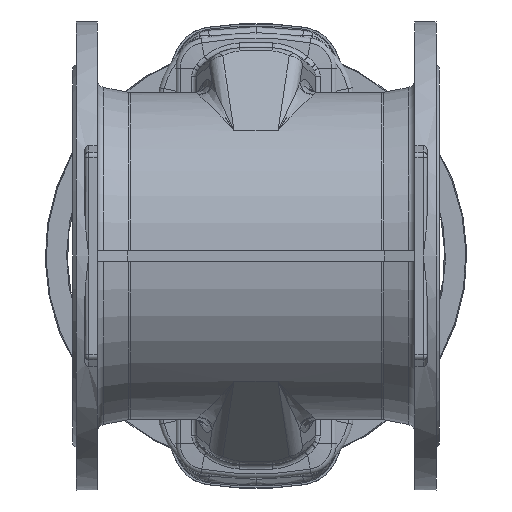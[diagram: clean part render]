
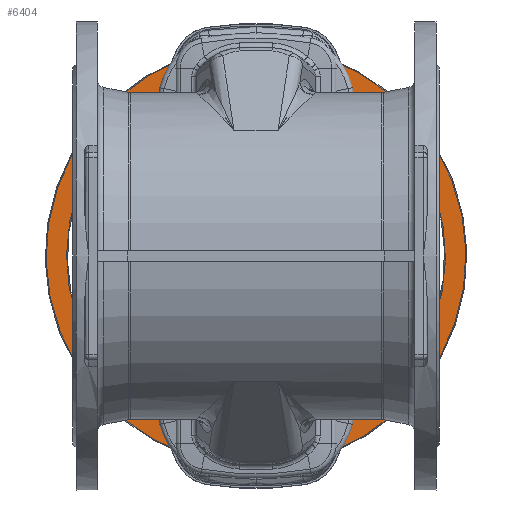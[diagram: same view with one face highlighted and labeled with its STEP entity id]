
A CAD part, front view. The second image highlights one B-rep face of the part: STEP entity #6404.
In plain terms, the highlighted planar face has unit normal (0, -1, 0).
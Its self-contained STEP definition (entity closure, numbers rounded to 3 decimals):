
#1335 = CARTESIAN_POINT ( 'NONE',  ( -127.971, 966., -159.018 ) ) ;
#1338 = CARTESIAN_POINT ( 'NONE',  ( 0., 966., 184.221 ) ) ;
#4257 = EDGE_LOOP ( 'NONE', ( #39475 ) ) ;
#4261 = EDGE_LOOP ( 'NONE', ( #39473 ) ) ;
#6404 = ADVANCED_FACE ( 'NONE', ( #14721, #14726 ), #12717, .F. ) ;
#12359 = AXIS2_PLACEMENT_3D ( 'NONE', #12718, #12723, #12724 ) ;
#12717 = PLANE ( 'NONE',  #12359 ) ;
#12718 = CARTESIAN_POINT ( 'NONE',  ( 125.463, 966., 155.902 ) ) ;
#12723 = DIRECTION ( 'NONE',  ( 0., 1., 0. ) ) ;
#12724 = DIRECTION ( 'NONE',  ( -0.627, 0., -0.779 ) ) ;
#14721 = FACE_OUTER_BOUND ( 'NONE', #4261, .T. ) ;
#14726 = FACE_BOUND ( 'NONE', #4257, .T. ) ;
#36856 = CARTESIAN_POINT ( 'NONE',  ( 0., 966., 0. ) ) ;
#36857 = DIRECTION ( 'NONE',  ( 0., 1., 0. ) ) ;
#36858 = DIRECTION ( 'NONE',  ( -0.627, 0., -0.779 ) ) ;
#36866 = CARTESIAN_POINT ( 'NONE',  ( 0., 966., 0. ) ) ;
#36867 = DIRECTION ( 'NONE',  ( 0., -1., 0. ) ) ;
#36868 = DIRECTION ( 'NONE',  ( 0., 0., 1. ) ) ;
#37596 = EDGE_CURVE ( 'NONE', #45049, #45049, #47599, .T. ) ;
#37606 = EDGE_CURVE ( 'NONE', #45057, #45057, #47602, .T. ) ;
#39473 = ORIENTED_EDGE ( 'NONE', *, *, #37596, .F. ) ;
#39475 = ORIENTED_EDGE ( 'NONE', *, *, #37606, .F. ) ;
#45049 = VERTEX_POINT ( 'NONE', #1335 ) ;
#45057 = VERTEX_POINT ( 'NONE', #1338 ) ;
#45888 = AXIS2_PLACEMENT_3D ( 'NONE', #36856, #36857, #36858 ) ;
#45891 = AXIS2_PLACEMENT_3D ( 'NONE', #36866, #36867, #36868 ) ;
#47599 = CIRCLE ( 'NONE', #45888, 204.116 ) ;
#47602 = CIRCLE ( 'NONE', #45891, 184.221 ) ;
